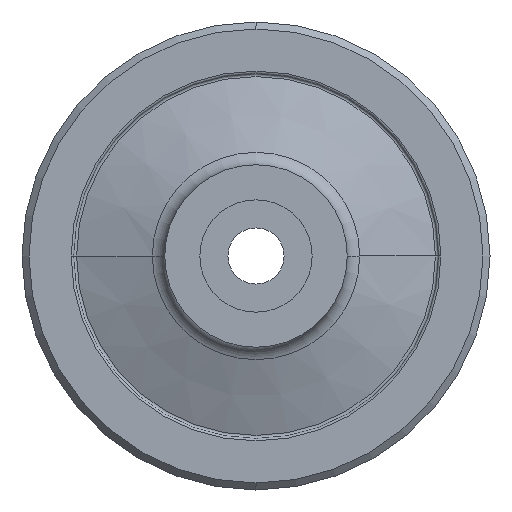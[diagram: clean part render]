
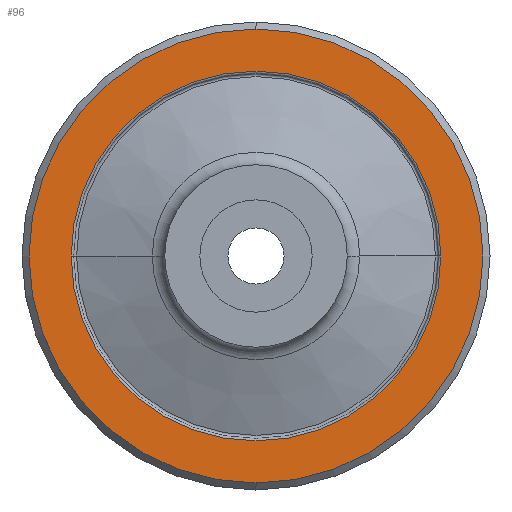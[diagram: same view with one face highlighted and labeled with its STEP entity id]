
A CAD part, left-side view. The second image highlights one B-rep face of the part: STEP entity #96.
In plain terms, the highlighted planar face has unit normal (-1, 0, 0).
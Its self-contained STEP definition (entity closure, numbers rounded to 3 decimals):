
#15 = DIRECTION ( 'NONE',  ( 0., 1., 0. ) ) ;
#20 = CARTESIAN_POINT ( 'NONE',  ( 25., -39.5, 0. ) ) ;
#96 = ADVANCED_FACE ( 'NONE', ( #457, #335 ), #847, .F. ) ;
#156 = VERTEX_POINT ( 'NONE', #1006 ) ;
#191 = VERTEX_POINT ( 'NONE', #20 ) ;
#228 = DIRECTION ( 'NONE',  ( 0., 1., 0. ) ) ;
#233 = DIRECTION ( 'NONE',  ( 1., 0., 0. ) ) ;
#247 = EDGE_CURVE ( 'NONE', #191, #585, #1145, .T. ) ;
#268 = EDGE_CURVE ( 'NONE', #585, #191, #899, .T. ) ;
#271 = DIRECTION ( 'NONE',  ( -1., 0., 0. ) ) ;
#308 = AXIS2_PLACEMENT_3D ( 'NONE', #750, #1173, #228 ) ;
#335 = FACE_BOUND ( 'NONE', #1143, .T. ) ;
#345 = EDGE_CURVE ( 'NONE', #156, #1301, #925, .T. ) ;
#368 = CARTESIAN_POINT ( 'NONE',  ( 25., 0., 0. ) ) ;
#375 = AXIS2_PLACEMENT_3D ( 'NONE', #756, #437, #15 ) ;
#393 = CARTESIAN_POINT ( 'NONE',  ( 25., 0., 0. ) ) ;
#405 = CARTESIAN_POINT ( 'NONE',  ( 25., 0., 48.5 ) ) ;
#437 = DIRECTION ( 'NONE',  ( 1., 0., 0. ) ) ;
#457 = FACE_OUTER_BOUND ( 'NONE', #1106, .T. ) ;
#462 = AXIS2_PLACEMENT_3D ( 'NONE', #368, #1095, #689 ) ;
#472 = DIRECTION ( 'NONE',  ( 0., 1., 0. ) ) ;
#534 = AXIS2_PLACEMENT_3D ( 'NONE', #1178, #233, #1070 ) ;
#585 = VERTEX_POINT ( 'NONE', #1069 ) ;
#611 = ORIENTED_EDGE ( 'NONE', *, *, #978, .T. ) ;
#688 = AXIS2_PLACEMENT_3D ( 'NONE', #393, #271, #472 ) ;
#689 = DIRECTION ( 'NONE',  ( 0., 1., 0. ) ) ;
#707 = ORIENTED_EDGE ( 'NONE', *, *, #247, .T. ) ;
#750 = CARTESIAN_POINT ( 'NONE',  ( 25., 0., 0. ) ) ;
#756 = CARTESIAN_POINT ( 'NONE',  ( 25., 0., 0. ) ) ;
#817 = ORIENTED_EDGE ( 'NONE', *, *, #345, .T. ) ;
#847 = PLANE ( 'NONE',  #534 ) ;
#899 = CIRCLE ( 'NONE', #308, 39.5 ) ;
#925 = CIRCLE ( 'NONE', #688, 48.5 ) ;
#962 = ORIENTED_EDGE ( 'NONE', *, *, #268, .T. ) ;
#978 = EDGE_CURVE ( 'NONE', #1301, #156, #1240, .T. ) ;
#1006 = CARTESIAN_POINT ( 'NONE',  ( 25., 0., -48.5 ) ) ;
#1069 = CARTESIAN_POINT ( 'NONE',  ( 25., 39.5, 0. ) ) ;
#1070 = DIRECTION ( 'NONE',  ( 0., 1., 0. ) ) ;
#1095 = DIRECTION ( 'NONE',  ( -1., 0., 0. ) ) ;
#1106 = EDGE_LOOP ( 'NONE', ( #817, #611 ) ) ;
#1143 = EDGE_LOOP ( 'NONE', ( #962, #707 ) ) ;
#1145 = CIRCLE ( 'NONE', #375, 39.5 ) ;
#1173 = DIRECTION ( 'NONE',  ( 1., 0., 0. ) ) ;
#1178 = CARTESIAN_POINT ( 'NONE',  ( 25., 39., 0. ) ) ;
#1240 = CIRCLE ( 'NONE', #462, 48.5 ) ;
#1301 = VERTEX_POINT ( 'NONE', #405 ) ;
